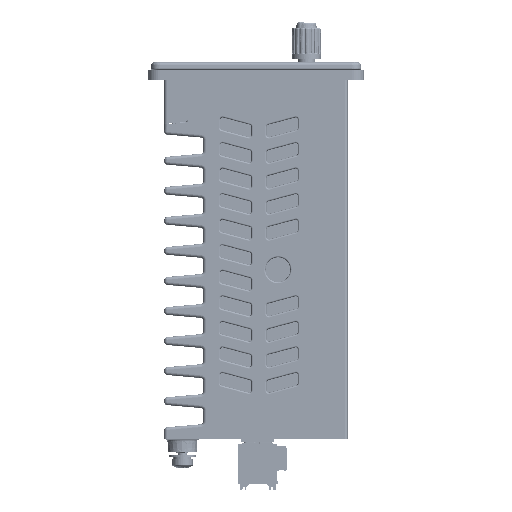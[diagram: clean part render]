
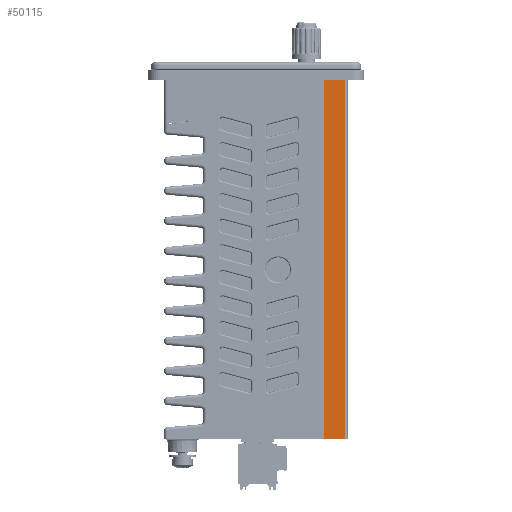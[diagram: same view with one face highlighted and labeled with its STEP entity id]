
A CAD part, front view. The second image highlights one B-rep face of the part: STEP entity #50115.
In plain terms, the highlighted planar face has unit normal (0, -1, 0).
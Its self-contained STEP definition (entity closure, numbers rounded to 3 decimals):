
#26946 = VERTEX_POINT ( 'NONE', #132859 ) ;
#28020 = CARTESIAN_POINT ( 'NONE',  ( 22.719, -52.5, 61.5 ) ) ;
#38920 = ORIENTED_EDGE ( 'NONE', *, *, #363647, .T. ) ;
#42370 = DIRECTION ( 'NONE',  ( 1., 0., 0. ) ) ;
#46621 = CARTESIAN_POINT ( 'NONE',  ( 22.719, -52.5, -61.5 ) ) ;
#50115 = ADVANCED_FACE ( 'NONE', ( #347890 ), #295550, .T. ) ;
#62321 = LINE ( 'NONE', #177722, #192106 ) ;
#62842 = ORIENTED_EDGE ( 'NONE', *, *, #339010, .F. ) ;
#75083 = ORIENTED_EDGE ( 'NONE', *, *, #240633, .T. ) ;
#82672 = DIRECTION ( 'NONE',  ( 0., -1., 0. ) ) ;
#94570 = VECTOR ( 'NONE', #42370, 1000. ) ;
#103525 = CARTESIAN_POINT ( 'NONE',  ( 22.719, -52.5, -61.5 ) ) ;
#110560 = VECTOR ( 'NONE', #310691, 1000. ) ;
#120757 = VERTEX_POINT ( 'NONE', #28020 ) ;
#132859 = CARTESIAN_POINT ( 'NONE',  ( 29.5, -52.5, 61.5 ) ) ;
#134142 = LINE ( 'NONE', #46621, #253984 ) ;
#146273 = DIRECTION ( 'NONE',  ( 0., 0., -1. ) ) ;
#161572 = ORIENTED_EDGE ( 'NONE', *, *, #370812, .T. ) ;
#164811 = EDGE_LOOP ( 'NONE', ( #75083, #161572, #62842, #38920 ) ) ;
#177722 = CARTESIAN_POINT ( 'NONE',  ( -30.5, -52.5, 61.5 ) ) ;
#189592 = LINE ( 'NONE', #314899, #94570 ) ;
#192106 = VECTOR ( 'NONE', #275147, 1000. ) ;
#198578 = LINE ( 'NONE', #338612, #110560 ) ;
#223682 = DIRECTION ( 'NONE',  ( 0., 0., -1. ) ) ;
#240633 = EDGE_CURVE ( 'NONE', #306211, #318032, #189592, .T. ) ;
#253984 = VECTOR ( 'NONE', #223682, 1000. ) ;
#263208 = CARTESIAN_POINT ( 'NONE',  ( 29.5, -52.5, -61.5 ) ) ;
#275147 = DIRECTION ( 'NONE',  ( 1., 0., 0. ) ) ;
#295550 = PLANE ( 'NONE',  #341131 ) ;
#306211 = VERTEX_POINT ( 'NONE', #103525 ) ;
#310691 = DIRECTION ( 'NONE',  ( 0., 0., 1. ) ) ;
#314899 = CARTESIAN_POINT ( 'NONE',  ( -30.5, -52.5, -61.5 ) ) ;
#318032 = VERTEX_POINT ( 'NONE', #263208 ) ;
#338612 = CARTESIAN_POINT ( 'NONE',  ( 29.5, -52.5, -61.5 ) ) ;
#339010 = EDGE_CURVE ( 'NONE', #120757, #26946, #62321, .T. ) ;
#341131 = AXIS2_PLACEMENT_3D ( 'NONE', #375779, #82672, #146273 ) ;
#347890 = FACE_OUTER_BOUND ( 'NONE', #164811, .T. ) ;
#363647 = EDGE_CURVE ( 'NONE', #120757, #306211, #134142, .T. ) ;
#370812 = EDGE_CURVE ( 'NONE', #318032, #26946, #198578, .T. ) ;
#375779 = CARTESIAN_POINT ( 'NONE',  ( -30.5, -52.5, -61.5 ) ) ;
